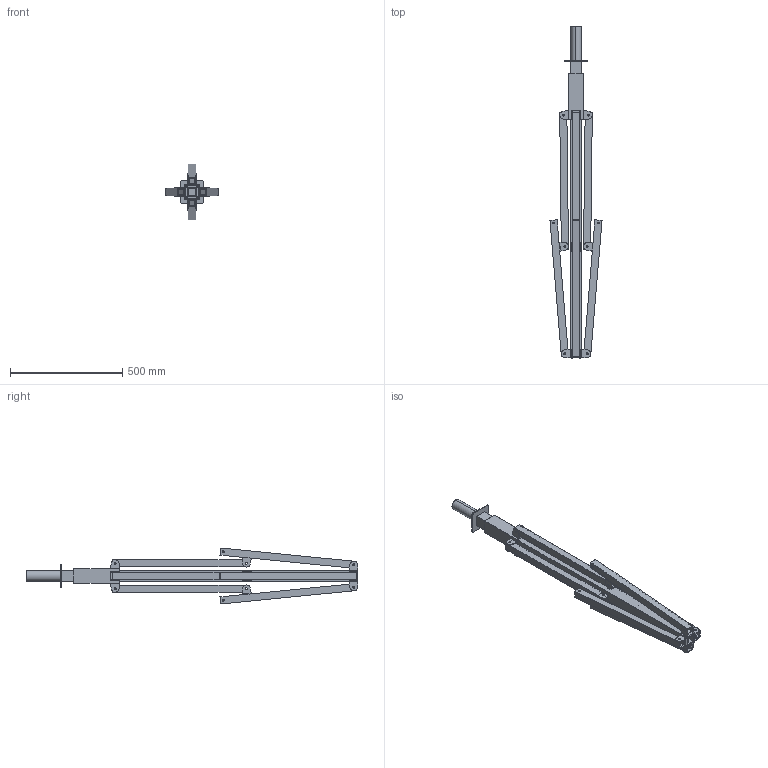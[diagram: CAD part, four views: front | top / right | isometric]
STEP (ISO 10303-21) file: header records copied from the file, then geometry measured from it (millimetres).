
FILE_DESCRIPTION (( 'STEP AP203' ), '1' );
FILE_NAME ('pirana short STEP.STEP', '2013-06-30T23:22:12', ( 'Rob' ), ( '' ), 'SwSTEP 2.0', 'SolidWorks 2013', '' );
FILE_SCHEMA (( 'CONFIG_CONTROL_DESIGN' ));
Length unit declared in the file: inch
Products named in the file (6): Bottom slider; leg piece bot; leg piece top; Top piece; pirana short STEP; Bottom of quadpod
Assembly tree (11 placements, depth 2):
  pirana short STEP
    Bottom of quadpod
    Bottom slider
    leg piece bot  x4
    leg piece top  x4
    Top piece
Bounding box: 231.89 x 1477.96 x 249.22 mm (x, y, z)
Volume: 3654756.1 mm3; surface area: 2245424.5 mm2
Topology: 16 solids, 16 shells, 398 faces, 1070 edges, 708 vertices
Faces by surface type: plane 228, cylinder 122, bspline 48
Entity records: 8238 total; most frequent: CARTESIAN_POINT 1728, ORIENTED_EDGE 1228, DIRECTION 1070, EDGE_CURVE 614, LINE 418, VECTOR 418, VERTEX_POINT 408, AXIS2_PLACEMENT_3D 326
